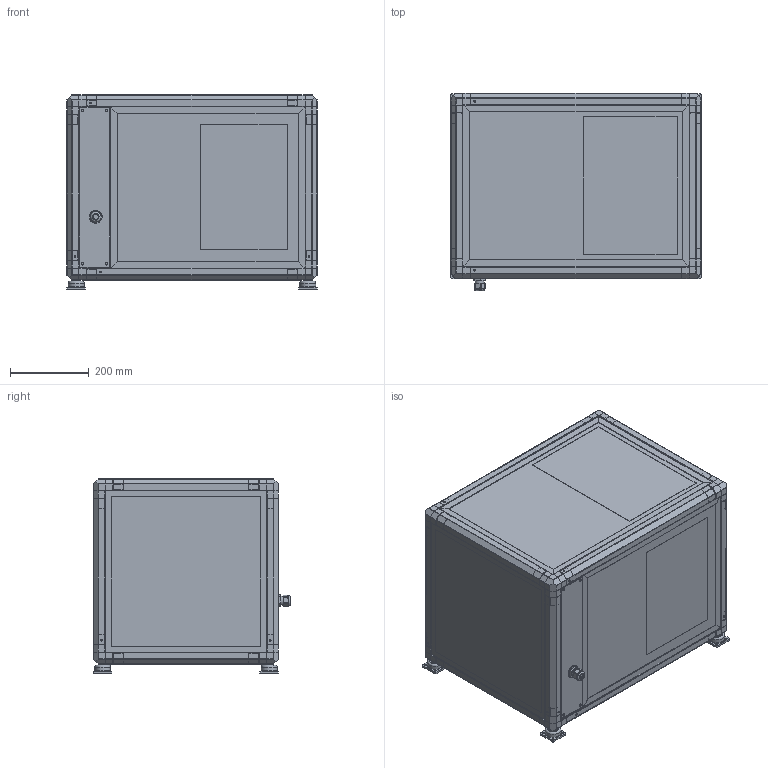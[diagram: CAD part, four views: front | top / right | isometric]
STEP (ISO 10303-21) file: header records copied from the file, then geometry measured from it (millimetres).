
FILE_DESCRIPTION(/* description */ (''),/* implementation_level */ '2;1');
FILE_NAME(/* name */ '\\NASTMDMARINE\Disegni\Disegni\01_Prodotti\EXH2000\04_File CAD per condivisione\EXH2000.stp',/* time_stamp */ '2021-11-15T13:50:37+01:00',/* author */ ('CAD 1'),/* organization */ (''),/* preprocessor_version */ 'ST-DEVELOPER v18.1',/* originating_system */ 'Autodesk Inventor 2021',/* authorisation */ '');
FILE_SCHEMA (('AUTOMOTIVE_DESIGN { 1 0 10303 214 3 1 1 }'));
Products named in the file (31): EXH2000; 164052-H01_l-al-5613-01-00 gr31v; EXH2000_SUP; AHU2000_L; BB20; Pressacavo PG; EXH2000_CL; EXH2000_FP; fonoassorbente_exh2000; fonossorbente_2_exh2000; fonoassorbente_exh2000_ester; Fonoassorbente_exh2000_lato_esterno_deflettore; EXH2000_DEF; Telaio AHU2000_GR31; APS_Arosio_PS130-25-0_421_GR31V_filtrro; APS_Arosio_PS130-25-0_GR31V; APS_Arosio_PS130-25-0_1250-2_GR31V; Testata Telaio _GR31V; APS_Arosio_PS130-25-0_Giunto_GR31V; Giunto_p3_GR31V; Giunto_p2_GR31V; APS_Arosio_PS130-25-0_421_GR31V; APS_Arosio_PS130-25-0_551_GR31V; APS_Arosio_PS130-25-0_1251_GR31V; APS_Arosio_PS130-25-0_125_GR31V; Pannello_AHU2000_1; Pannello_AHU2000_7; Pannello_AHU2000_3; Pannello_AHU2000_2; Pannello_AHU2000_6; FILTRO_
Assembly tree (55 placements, depth 5):
  EXH2000
    164052-H01_l-al-5613-01-00 gr31v
    EXH2000_SUP
    AHU2000_L
    BB20  x4
    Pressacavo PG
    EXH2000_CL
    EXH2000_FP
    fonoassorbente_exh2000  x3
    fonossorbente_2_exh2000  x3
    fonoassorbente_exh2000_ester
    Fonoassorbente_exh2000_lato_esterno_deflettore  x3
    EXH2000_DEF  x3
    Telaio AHU2000_GR31
      APS_Arosio_PS130-25-0_Giunto_GR31V  x4
        Giunto_p2_GR31V
        Giunto_p3_GR31V
      APS_Arosio_PS130-25-0_421_GR31V_filtrro
      APS_Arosio_PS130-25-0_421_GR31V
      APS_Arosio_PS130-25-0_551_GR31V  x2
      APS_Arosio_PS130-25-0_GR31V
      APS_Arosio_PS130-25-0_1250-2_GR31V
      Testata Telaio _GR31V
        APS_Arosio_PS130-25-0_Giunto_GR31V  x4
          Giunto_p2_GR31V
          Giunto_p3_GR31V
        APS_Arosio_PS130-25-0_421_GR31V  x2
        APS_Arosio_PS130-25-0_551_GR31V  x2
      APS_Arosio_PS130-25-0_1251_GR31V
      APS_Arosio_PS130-25-0_125_GR31V
    Pannello_AHU2000_1
    Pannello_AHU2000_7
    Pannello_AHU2000_3
    Pannello_AHU2000_2
    Pannello_AHU2000_6
    FILTRO_
Bounding box: 635 x 500.7 x 493 mm (x, y, z)
Volume: 46017720 mm3; surface area: 9703501.4 mm2
Topology: 118 solids, 118 shells, 4219 faces, 10522 edges, 6406 vertices
Faces by surface type: plane 1830, cylinder 1587, torus 419, sphere 219, bspline 117, cone 47
Full cylindrical faces by diameter (mm): 3.3 x1, 3.5 x18, 4 x17, 4.5 x18, 4.7 x1, 5 x52, 5.459 x4, 6 x9, 6.6 x6, 6.8 x4, 7 x16, 7.2 x2, 7.4 x1, 8.5 x8, 8.91 x1, 9 x10, 12.7 x1, 14 x4, 14.85 x1, 17 x1, 21 x1, 22 x3, 22.3 x4, 23 x4, 26.4 x1, 33.1 x2, 40 x4, 150.8 x1, 154 x1, 156 x3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
Entity records: 70052 total; most frequent: CARTESIAN_POINT 17886, DIRECTION 10384, ORIENTED_EDGE 10280, EDGE_CURVE 5140, AXIS2_PLACEMENT_3D 3573, VERTEX_POINT 3366, LINE 3238, VECTOR 3238
